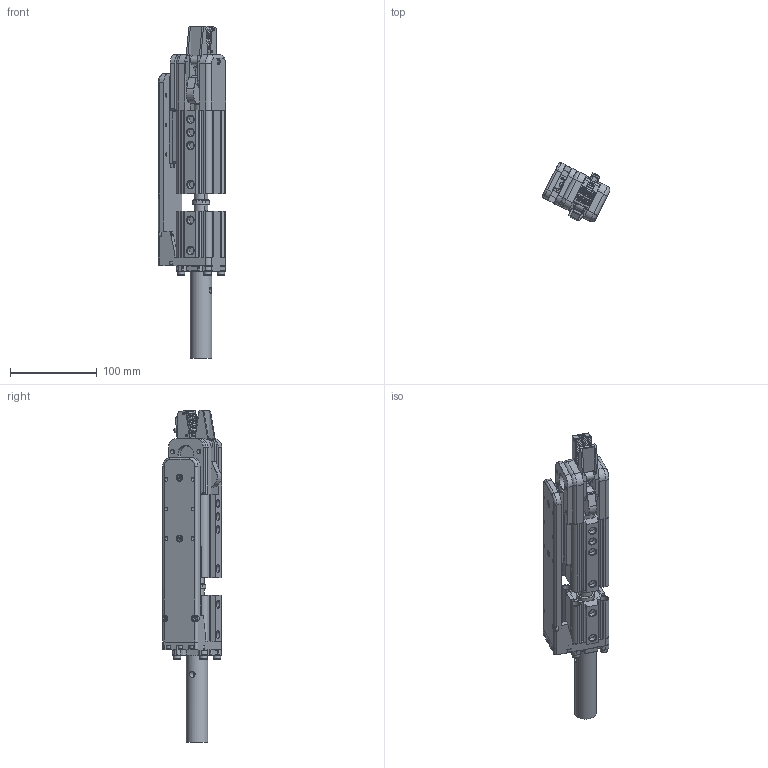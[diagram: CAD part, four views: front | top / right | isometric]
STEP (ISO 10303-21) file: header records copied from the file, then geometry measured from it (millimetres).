
FILE_DESCRIPTION(/* description */ (''),/* implementation_level */ '2;1');
FILE_NAME(/* name */ '8Y00416-GRP32B-3020CP--25.stp',/* time_stamp */ '2023-02-22T14:22:51+08:00',/* author */ (''),/* organization */ (''),/* preprocessor_version */ 'ST-DEVELOPER v16',/* originating_system */ 'SIEMENS PLM Software NX 10.0',/* authorisation */ '');
FILE_SCHEMA (('AUTOMOTIVE_DESIGN { 1 0 10303 214 3 1 1 1 }'));
Products named in the file (1): _model45
Bounding box: 77.89 x 68.83 x 381.81 mm (x, y, z)
Volume: 488435.6 mm3; surface area: 194566.4 mm2
Topology: 18 solids, 41 shells, 2716 faces, 5673 edges, 3097 vertices
Faces by surface type: plane 2114, cylinder 388, cone 163, torus 27, revolution 14, bspline 10
Full cylindrical faces by diameter (mm): 2.5 x4, 3 x5, 3.1 x1, 3.3 x6, 3.4 x2, 4 x12, 4.1 x1, 4.2 x16, 4.5 x9, 4.917 x8, 5 x9, 5.2 x12, 5.5 x9, 6 x11, 6.5 x1, 6.647 x3, 6.8 x1, 7 x14, 8 x10, 8.1 x1, 8.5 x9, 8.566 x6, 8.6 x1, 9 x16, 10 x5, 13 x2, 13.5 x1, 14 x1, 15 x2, 16 x4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
Entity records: 87084 total; most frequent: CARTESIAN_POINT 13059, DIRECTION 11506, ORIENTED_EDGE 10280, EDGE_CURVE 5140, LINE 3896, VECTOR 3896, AXIS2_PLACEMENT_3D 3798, EDGE_LOOP 3265
